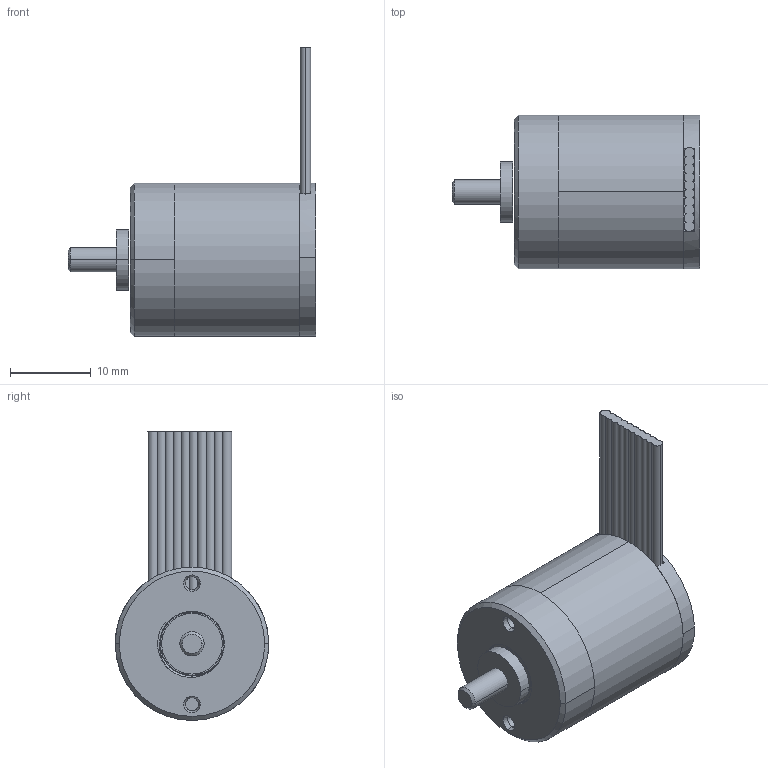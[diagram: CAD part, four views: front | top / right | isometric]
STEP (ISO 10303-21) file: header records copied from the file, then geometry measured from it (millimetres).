
FILE_DESCRIPTION (( 'STEP AP214' ), '1' );
FILE_NAME ('ﾋﾈﾐ-119ﾀ.STEP', '2017-05-23T08:44:58', ( '' ), ( '' ), 'SwSTEP 2.0', 'SolidWorks 2013', '' );
FILE_SCHEMA (( 'AUTOMOTIVE_DESIGN' ));
Length unit declared in the file: millimetre
Products named in the file (1): ﾋﾈﾐ-119ﾀ
Bounding box: 30.7 x 19 x 35.78 mm (x, y, z)
Surface area: 3137.6 mm2 (no closed solid volume)
Topology: 0 solids, 8 shells, 91 faces, 259 edges, 179 vertices
Faces by surface type: cylinder 63, plane 15, cone 8, torus 4, bspline 1
Entity records: 5255 total; most frequent: CARTESIAN_POINT 2007, DIRECTION 484, ORIENTED_EDGE 426, EDGE_CURVE 259, AXIS2_PLACEMENT_3D 200, VERTEX_POINT 179, CIRCLE 109, EDGE_LOOP 101
